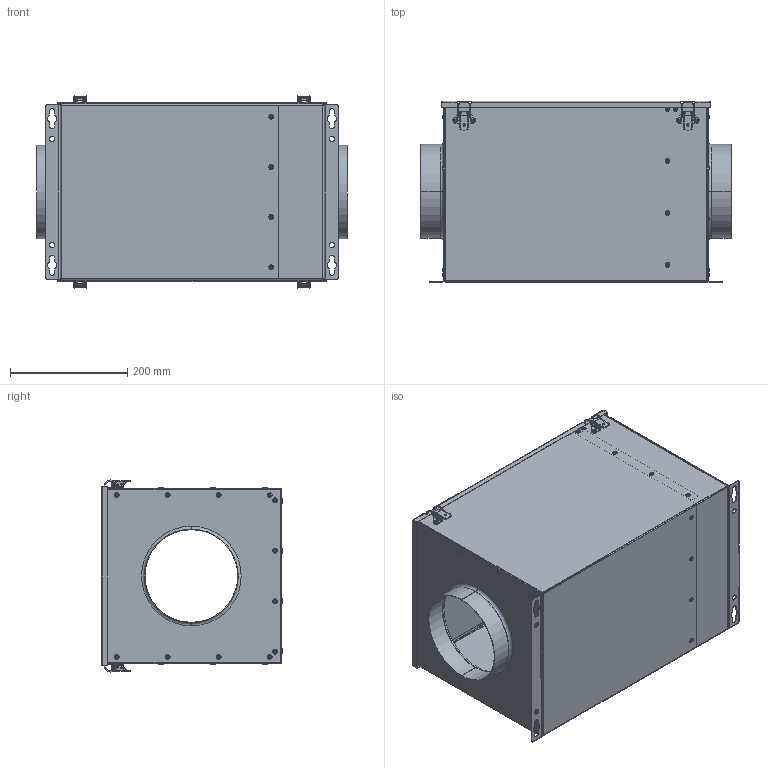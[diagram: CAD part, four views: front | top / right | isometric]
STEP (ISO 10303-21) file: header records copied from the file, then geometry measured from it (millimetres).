
FILE_DESCRIPTION (( 'STEP AP203' ), '1' );
FILE_NAME ('112841-01_FT160_step.step', '2020-08-26T08:27:22', ( '' ), ( '' ), 'SwSTEP 2.0', 'SolidWorks 2017', '' );
FILE_SCHEMA (( 'CONFIG_CONTROL_DESIGN' ));
Length unit declared in the file: millimetre
Products named in the file (1): 112841-01_FT160_step
Bounding box: 530 x 309.3 x 327.58 mm (x, y, z)
Surface area: 1464198.1 mm2 (no closed solid volume)
Topology: 0 solids, 84 shells, 796 faces, 2457 edges, 1653 vertices
Faces by surface type: cylinder 387, plane 201, torus 116, bspline 92
Entity records: 29634 total; most frequent: CARTESIAN_POINT 7183, DIRECTION 5182, ORIENTED_EDGE 4000, EDGE_CURVE 2457, AXIS2_PLACEMENT_3D 2092, VERTEX_POINT 1653, CIRCLE 1387, LINE 998
